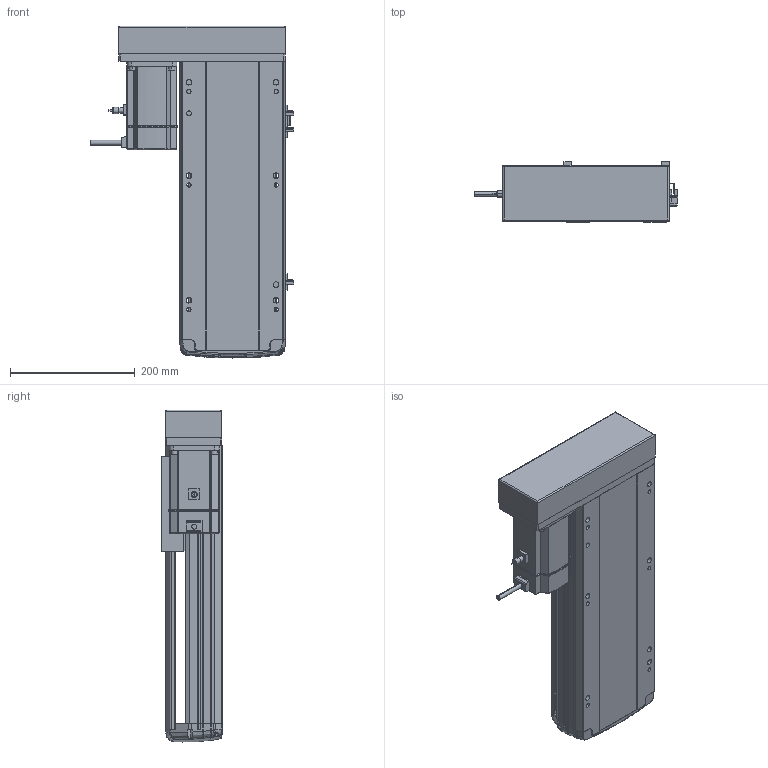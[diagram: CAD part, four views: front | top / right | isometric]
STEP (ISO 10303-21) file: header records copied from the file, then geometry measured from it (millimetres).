
FILE_DESCRIPTION (( 'STEP AP214' ), '1' );
FILE_NAME ('RTH17-XX-250-R-M75-C4.STEP', '2025-10-24T10:14:09', ( '' ), ( '' ), 'SwSTEP 2.0', 'SolidWorks 2018', '' );
FILE_SCHEMA (( 'AUTOMOTIVE_DESIGN' ));
Length unit declared in the file: millimetre
Products named in the file (10): N_OMRON EE-SX672 換覜ん^RTH17-XX-XX-R-M75-C4ㄗ源最宒ㄘ; N_RTH17-M-011底座^RTH17-XX-XX-R-M75-C4（方程式）; N_RTH17-GY-001P^RTH17-XX-XX-R-M75-C4（方程式）; N_M75^RTH17-XX-XX-R-M75-C4（方程式）; N_RTH17-E-004丝杆螺母连接座^RTH17-XX-XX-R-M75-C4（方程式）; N_RTH17-M-007上盖^RTH17-XX-XX-R-M75-C4（方程式）; N_RTH17-L-018盖子^RTH17-XX-XX-R-M75-C4（方程式）; N_RTH17-L-008-P75电机安装板左转折^RTH17-XX-XX-R-M75-C4（方程式）; N_RTH-L-012 感应片(外置)^RTH17-XX-XX-R-M75-C4（方程式）; RTH17-XX-250-R-M75-C4
Assembly tree (11 placements, depth 2):
  RTH17-XX-250-R-M75-C4
    N_RTH17-M-011底座^RTH17-XX-XX-R-M75-C4（方程式）
    N_RTH17-M-007上盖^RTH17-XX-XX-R-M75-C4（方程式）
    N_M75^RTH17-XX-XX-R-M75-C4（方程式）
    N_OMRON EE-SX672 換覜ん^RTH17-XX-XX-R-M75-C4ㄗ源最宒ㄘ  x3
    N_RTH-L-012 感应片(外置)^RTH17-XX-XX-R-M75-C4（方程式）
    N_RTH17-L-008-P75电机安装板左转折^RTH17-XX-XX-R-M75-C4（方程式）
    N_RTH17-L-018盖子^RTH17-XX-XX-R-M75-C4（方程式）
    N_RTH17-E-004丝杆螺母连接座^RTH17-XX-XX-R-M75-C4（方程式）
    N_RTH17-GY-001P^RTH17-XX-XX-R-M75-C4（方程式）
Bounding box: 326.2 x 97 x 533.07 mm (x, y, z)
Volume: 6065327.9 mm3; surface area: 762112.1 mm2
Topology: 13 solids, 15 shells, 1709 faces, 4673 edges, 3022 vertices
Faces by surface type: plane 827, cylinder 468, bspline 377, cone 28, torus 9
Entity records: 49097 total; most frequent: CARTESIAN_POINT 19733, ORIENTED_EDGE 6370, DIRECTION 5293, EDGE_CURVE 3189, VERTEX_POINT 2058, AXIS2_PLACEMENT_3D 1765, LINE 1763, VECTOR 1763
